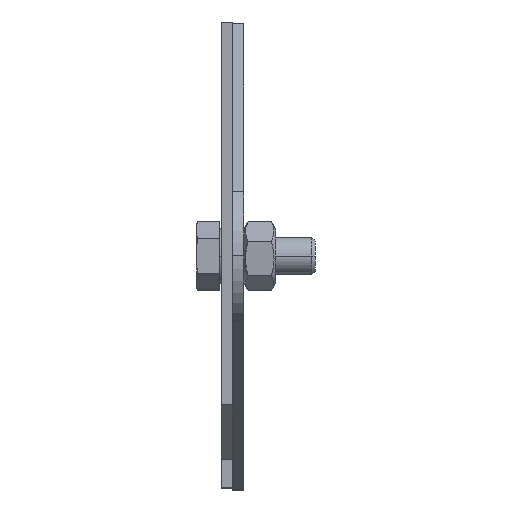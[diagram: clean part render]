
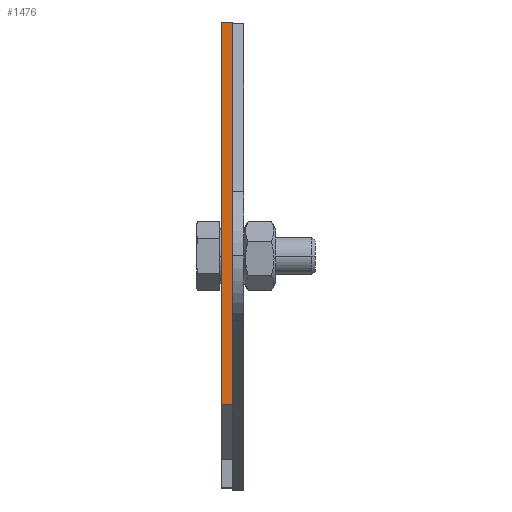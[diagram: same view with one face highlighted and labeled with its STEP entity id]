
A CAD part, top view. The second image highlights one B-rep face of the part: STEP entity #1476.
In plain terms, the highlighted planar face has unit normal (0, 0, 1).
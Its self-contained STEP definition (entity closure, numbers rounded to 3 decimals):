
#12 = VECTOR ( 'NONE', #20, 1000. ) ;
#20 = DIRECTION ( 'NONE',  ( 0., 1., 0. ) ) ;
#34 = CARTESIAN_POINT ( 'NONE',  ( 3., 22., 70. ) ) ;
#38 = LINE ( 'NONE', #1471, #12 ) ;
#47 = EDGE_CURVE ( 'NONE', #982, #241, #38, .T. ) ;
#112 = VECTOR ( 'NONE', #770, 1000. ) ;
#241 = VERTEX_POINT ( 'NONE', #748 ) ;
#352 = VERTEX_POINT ( 'NONE', #1006 ) ;
#373 = DIRECTION ( 'NONE',  ( -1., 0., 0. ) ) ;
#380 = LINE ( 'NONE', #1808, #112 ) ;
#504 = EDGE_LOOP ( 'NONE', ( #741, #2010, #779, #1641 ) ) ;
#507 = EDGE_CURVE ( 'NONE', #982, #352, #1069, .T. ) ;
#578 = PLANE ( 'NONE',  #2288 ) ;
#588 = DIRECTION ( 'NONE',  ( 1., 0., 0. ) ) ;
#741 = ORIENTED_EDGE ( 'NONE', *, *, #47, .F. ) ;
#748 = CARTESIAN_POINT ( 'NONE',  ( 0., 124., 70. ) ) ;
#770 = DIRECTION ( 'NONE',  ( 0., 1., 0. ) ) ;
#779 = ORIENTED_EDGE ( 'NONE', *, *, #2044, .T. ) ;
#789 = DIRECTION ( 'NONE',  ( 0., 0., -1. ) ) ;
#868 = DIRECTION ( 'NONE',  ( 1., 0., 0. ) ) ;
#884 = VECTOR ( 'NONE', #868, 1000. ) ;
#982 = VERTEX_POINT ( 'NONE', #1987 ) ;
#1006 = CARTESIAN_POINT ( 'NONE',  ( 3., 22., 70. ) ) ;
#1069 = LINE ( 'NONE', #34, #884 ) ;
#1258 = EDGE_CURVE ( 'NONE', #241, #1780, #1655, .T. ) ;
#1357 = VECTOR ( 'NONE', #588, 1000. ) ;
#1471 = CARTESIAN_POINT ( 'NONE',  ( 0., 0., 70. ) ) ;
#1476 = ADVANCED_FACE ( 'NONE', ( #2270 ), #578, .F. ) ;
#1641 = ORIENTED_EDGE ( 'NONE', *, *, #1258, .F. ) ;
#1655 = LINE ( 'NONE', #1823, #1357 ) ;
#1780 = VERTEX_POINT ( 'NONE', #2281 ) ;
#1808 = CARTESIAN_POINT ( 'NONE',  ( 3., 0., 70. ) ) ;
#1814 = CARTESIAN_POINT ( 'NONE',  ( 3., 124., 70. ) ) ;
#1823 = CARTESIAN_POINT ( 'NONE',  ( 0., 124., 70. ) ) ;
#1987 = CARTESIAN_POINT ( 'NONE',  ( 0., 22., 70. ) ) ;
#2010 = ORIENTED_EDGE ( 'NONE', *, *, #507, .T. ) ;
#2044 = EDGE_CURVE ( 'NONE', #352, #1780, #380, .T. ) ;
#2270 = FACE_OUTER_BOUND ( 'NONE', #504, .T. ) ;
#2281 = CARTESIAN_POINT ( 'NONE',  ( 3., 124., 70. ) ) ;
#2288 = AXIS2_PLACEMENT_3D ( 'NONE', #1814, #789, #373 ) ;
